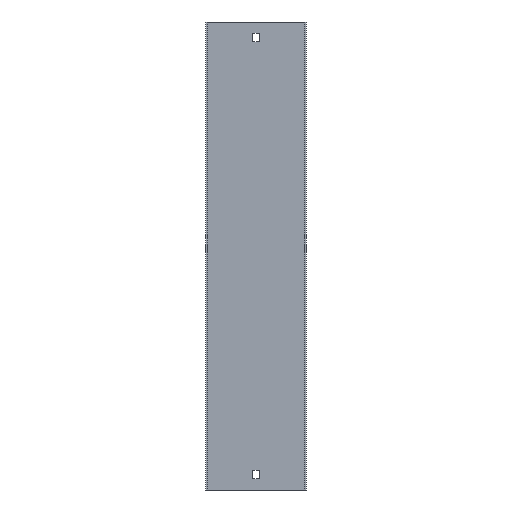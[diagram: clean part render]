
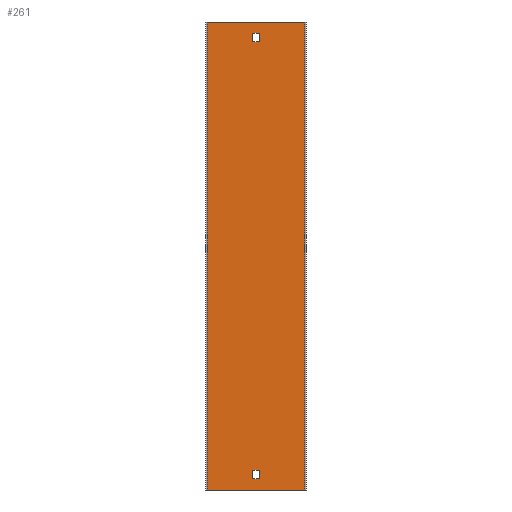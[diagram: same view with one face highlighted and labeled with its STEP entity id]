
A CAD part, front view. The second image highlights one B-rep face of the part: STEP entity #261.
In plain terms, the highlighted planar face has unit normal (0, -1, 0).
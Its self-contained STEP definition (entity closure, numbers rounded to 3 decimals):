
#1 = FACE_BOUND ( 'NONE', #579, .T. ) ;
#5 = VECTOR ( 'NONE', #379, 1000. ) ;
#9 = CARTESIAN_POINT ( 'NONE',  ( -3.25, -1.5, 229. ) ) ;
#10 = ORIENTED_EDGE ( 'NONE', *, *, #394, .T. ) ;
#15 = ORIENTED_EDGE ( 'NONE', *, *, #549, .T. ) ;
#18 = DIRECTION ( 'NONE',  ( 0., 0., -1. ) ) ;
#23 = LINE ( 'NONE', #80, #115 ) ;
#30 = VECTOR ( 'NONE', #412, 1000. ) ;
#40 = VERTEX_POINT ( 'NONE', #575 ) ;
#41 = CARTESIAN_POINT ( 'NONE',  ( -53.5, -1.5, -238. ) ) ;
#44 = LINE ( 'NONE', #196, #296 ) ;
#50 = EDGE_CURVE ( 'NONE', #485, #55, #44, .T. ) ;
#54 = PLANE ( 'NONE',  #568 ) ;
#55 = VERTEX_POINT ( 'NONE', #9 ) ;
#58 = CARTESIAN_POINT ( 'NONE',  ( 3.25, -1.5, -229. ) ) ;
#59 = EDGE_CURVE ( 'NONE', #410, #258, #508, .T. ) ;
#78 = ORIENTED_EDGE ( 'NONE', *, *, #59, .T. ) ;
#79 = ORIENTED_EDGE ( 'NONE', *, *, #442, .T. ) ;
#80 = CARTESIAN_POINT ( 'NONE',  ( -53.5, -1.5, 250. ) ) ;
#86 = DIRECTION ( 'NONE',  ( 1., 0., 0. ) ) ;
#89 = CARTESIAN_POINT ( 'NONE',  ( -53.5, -1.5, -250. ) ) ;
#97 = CARTESIAN_POINT ( 'NONE',  ( -3.25, -1.5, 238. ) ) ;
#115 = VECTOR ( 'NONE', #166, 1000. ) ;
#117 = EDGE_CURVE ( 'NONE', #472, #485, #428, .T. ) ;
#125 = CARTESIAN_POINT ( 'NONE',  ( -52., -1.5, 250. ) ) ;
#162 = CARTESIAN_POINT ( 'NONE',  ( -53.5, -1.5, 229. ) ) ;
#166 = DIRECTION ( 'NONE',  ( -1., 0., 0. ) ) ;
#168 = EDGE_CURVE ( 'NONE', #404, #472, #560, .T. ) ;
#179 = DIRECTION ( 'NONE',  ( 0., 0., 1. ) ) ;
#181 = DIRECTION ( 'NONE',  ( 0., 0., -1. ) ) ;
#194 = VERTEX_POINT ( 'NONE', #255 ) ;
#196 = CARTESIAN_POINT ( 'NONE',  ( -3.25, -1.5, 250. ) ) ;
#203 = CARTESIAN_POINT ( 'NONE',  ( -53.5, -1.5, 238. ) ) ;
#215 = ORIENTED_EDGE ( 'NONE', *, *, #234, .F. ) ;
#216 = DIRECTION ( 'NONE',  ( 0., 0., -1. ) ) ;
#224 = DIRECTION ( 'NONE',  ( -1., 0., 0. ) ) ;
#225 = VECTOR ( 'NONE', #312, 1000. ) ;
#226 = EDGE_LOOP ( 'NONE', ( #501, #339, #79, #78 ) ) ;
#231 = DIRECTION ( 'NONE',  ( 0., 0., -1. ) ) ;
#234 = EDGE_CURVE ( 'NONE', #55, #404, #436, .T. ) ;
#235 = VECTOR ( 'NONE', #179, 1000. ) ;
#243 = VECTOR ( 'NONE', #224, 1000. ) ;
#252 = CARTESIAN_POINT ( 'NONE',  ( 3.25, -1.5, 229. ) ) ;
#253 = EDGE_CURVE ( 'NONE', #527, #360, #574, .T. ) ;
#255 = CARTESIAN_POINT ( 'NONE',  ( 52., -1.5, 250. ) ) ;
#258 = VERTEX_POINT ( 'NONE', #582 ) ;
#261 = ADVANCED_FACE ( 'NONE', ( #464, #330, #1 ), #54, .T. ) ;
#266 = VECTOR ( 'NONE', #18, 1000. ) ;
#270 = DIRECTION ( 'NONE',  ( -1., 0., 0. ) ) ;
#287 = CARTESIAN_POINT ( 'NONE',  ( -52., -1.5, 250. ) ) ;
#296 = VECTOR ( 'NONE', #231, 1000. ) ;
#301 = LINE ( 'NONE', #350, #495 ) ;
#307 = ORIENTED_EDGE ( 'NONE', *, *, #50, .F. ) ;
#312 = DIRECTION ( 'NONE',  ( 1., 0., 0. ) ) ;
#314 = VECTOR ( 'NONE', #270, 1000. ) ;
#320 = VERTEX_POINT ( 'NONE', #460 ) ;
#330 = FACE_OUTER_BOUND ( 'NONE', #226, .T. ) ;
#339 = ORIENTED_EDGE ( 'NONE', *, *, #399, .F. ) ;
#349 = ORIENTED_EDGE ( 'NONE', *, *, #253, .T. ) ;
#350 = CARTESIAN_POINT ( 'NONE',  ( 3.25, -1.5, 250. ) ) ;
#357 = ORIENTED_EDGE ( 'NONE', *, *, #505, .T. ) ;
#360 = VERTEX_POINT ( 'NONE', #58 ) ;
#361 = CARTESIAN_POINT ( 'NONE',  ( -3.25, -1.5, 250. ) ) ;
#364 = LINE ( 'NONE', #89, #314 ) ;
#379 = DIRECTION ( 'NONE',  ( -1., 0., 0. ) ) ;
#394 = EDGE_CURVE ( 'NONE', #360, #475, #301, .T. ) ;
#399 = EDGE_CURVE ( 'NONE', #194, #320, #432, .T. ) ;
#402 = CARTESIAN_POINT ( 'NONE',  ( 3.25, -1.5, 250. ) ) ;
#404 = VERTEX_POINT ( 'NONE', #252 ) ;
#405 = CARTESIAN_POINT ( 'NONE',  ( -3.25, -1.5, -229. ) ) ;
#410 = VERTEX_POINT ( 'NONE', #125 ) ;
#411 = CARTESIAN_POINT ( 'NONE',  ( 3.25, -1.5, 238. ) ) ;
#412 = DIRECTION ( 'NONE',  ( 0., 0., -1. ) ) ;
#414 = DIRECTION ( 'NONE',  ( 0., -1., 0. ) ) ;
#426 = VECTOR ( 'NONE', #450, 1000. ) ;
#428 = LINE ( 'NONE', #203, #5 ) ;
#432 = LINE ( 'NONE', #573, #266 ) ;
#436 = LINE ( 'NONE', #162, #225 ) ;
#442 = EDGE_CURVE ( 'NONE', #194, #410, #23, .T. ) ;
#450 = DIRECTION ( 'NONE',  ( 0., 0., 1. ) ) ;
#455 = LINE ( 'NONE', #41, #243 ) ;
#460 = CARTESIAN_POINT ( 'NONE',  ( 52., -1.5, -250. ) ) ;
#464 = FACE_BOUND ( 'NONE', #503, .T. ) ;
#472 = VERTEX_POINT ( 'NONE', #411 ) ;
#475 = VERTEX_POINT ( 'NONE', #581 ) ;
#485 = VERTEX_POINT ( 'NONE', #97 ) ;
#491 = CARTESIAN_POINT ( 'NONE',  ( -53.5, -1.5, -229. ) ) ;
#493 = VECTOR ( 'NONE', #86, 1000. ) ;
#494 = ORIENTED_EDGE ( 'NONE', *, *, #117, .F. ) ;
#495 = VECTOR ( 'NONE', #216, 1000. ) ;
#501 = ORIENTED_EDGE ( 'NONE', *, *, #533, .F. ) ;
#503 = EDGE_LOOP ( 'NONE', ( #307, #494, #556, #215 ) ) ;
#505 = EDGE_CURVE ( 'NONE', #40, #527, #537, .T. ) ;
#508 = LINE ( 'NONE', #287, #30 ) ;
#527 = VERTEX_POINT ( 'NONE', #405 ) ;
#533 = EDGE_CURVE ( 'NONE', #320, #258, #364, .T. ) ;
#537 = LINE ( 'NONE', #361, #235 ) ;
#544 = CARTESIAN_POINT ( 'NONE',  ( -53.5, -1.5, 250. ) ) ;
#549 = EDGE_CURVE ( 'NONE', #475, #40, #455, .T. ) ;
#556 = ORIENTED_EDGE ( 'NONE', *, *, #168, .F. ) ;
#560 = LINE ( 'NONE', #402, #426 ) ;
#568 = AXIS2_PLACEMENT_3D ( 'NONE', #544, #414, #181 ) ;
#573 = CARTESIAN_POINT ( 'NONE',  ( 52., -1.5, 250. ) ) ;
#574 = LINE ( 'NONE', #491, #493 ) ;
#575 = CARTESIAN_POINT ( 'NONE',  ( -3.25, -1.5, -238. ) ) ;
#579 = EDGE_LOOP ( 'NONE', ( #15, #357, #349, #10 ) ) ;
#581 = CARTESIAN_POINT ( 'NONE',  ( 3.25, -1.5, -238. ) ) ;
#582 = CARTESIAN_POINT ( 'NONE',  ( -52., -1.5, -250. ) ) ;
